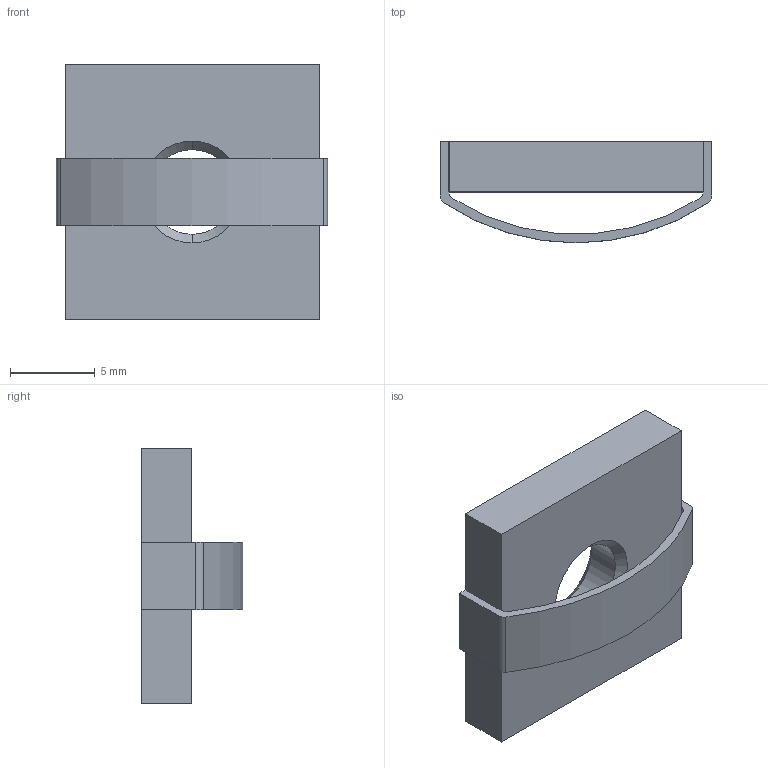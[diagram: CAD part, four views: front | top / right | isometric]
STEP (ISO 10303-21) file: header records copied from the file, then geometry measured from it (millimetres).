
FILE_DESCRIPTION (( 'STEP AP214' ), '1' );
FILE_NAME ('2.STEP', '2014-12-11T08:50:08', ( 'XTreme.ws' ), ( 'XTreme.ws' ), 'SwSTEP 2.0', 'SolidWorks 2014', '' );
FILE_SCHEMA (( 'AUTOMOTIVE_DESIGN' ));
Length unit declared in the file: millimetre
Products named in the file (3): SNSD.30.51.19. Ñóõàðü ïàçîâûé ñ ïðóæèííîé ïëàñòèíîé M6, ïàç 8(B79)_00; 2; SNSD.30.51.19. ﾏ跖浯(B79)_00
Assembly tree (2 placements, depth 2):
  2
    SNSD.30.51.19. Ñóõàðü ïàçîâûé ñ ïðóæèííîé ïëàñòèíîé M6, ïàç 8(B79)_00
    SNSD.30.51.19. ﾏ跖浯(B79)_00
Bounding box: 16 x 6 x 15 mm (x, y, z)
Volume: 658.3 mm3; surface area: 841.3 mm2
Topology: 2 solids, 2 shells, 26 faces, 62 edges, 40 vertices
Faces by surface type: plane 14, cylinder 8, cone 4
Entity records: 890 total; most frequent: DIRECTION 144, CARTESIAN_POINT 133, ORIENTED_EDGE 124, EDGE_CURVE 62, AXIS2_PLACEMENT_3D 51, VECTOR 42, LINE 42, VERTEX_POINT 40
